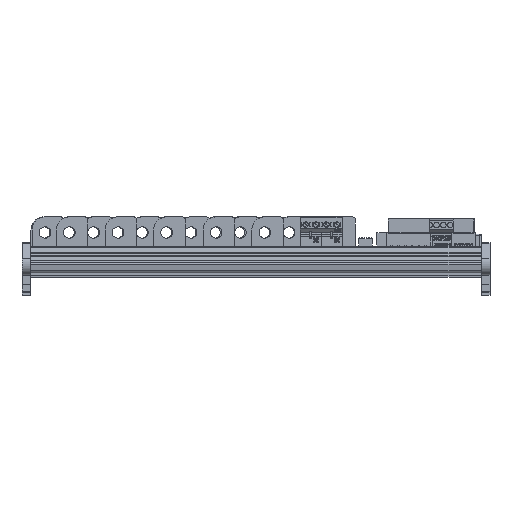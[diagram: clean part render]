
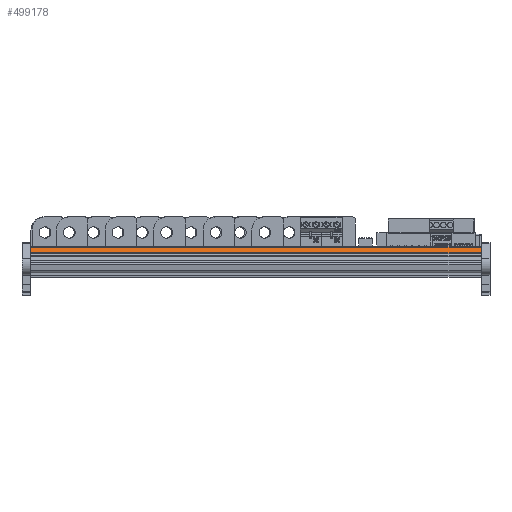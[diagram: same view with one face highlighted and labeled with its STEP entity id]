
A CAD part, front view. The second image highlights one B-rep face of the part: STEP entity #499178.
In plain terms, the highlighted free-form (B-spline) face has degree [1, 1] with [2, 2] control points.
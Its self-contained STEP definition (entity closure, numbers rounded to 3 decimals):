
#489519 = B_SPLINE_SURFACE_WITH_KNOTS('',1,1,(
    (#489520,#489521)
    ,(#489522,#489523
    )),.UNSPECIFIED.,.F.,.F.,.F.,(2,2),(2,2),(-112.497,
    8.897),(-17.3,5.1),.PIECEWISE_BEZIER_KNOTS.);
#489520 = CARTESIAN_POINT('',(60.697,-0.55,170.156));
#489521 = CARTESIAN_POINT('',(60.697,21.85,170.156));
#489522 = CARTESIAN_POINT('',(-60.697,-0.55,170.156));
#489523 = CARTESIAN_POINT('',(-60.697,21.85,170.156));
#489573 = B_SPLINE_SURFACE_WITH_KNOTS('',1,1,(
    (#489574,#489575)
    ,(#489576,#489577
    )),.UNSPECIFIED.,.F.,.F.,.F.,(2,2),(2,2),(-112.497,
    8.897),(-17.3,5.1),.PIECEWISE_BEZIER_KNOTS.);
#489574 = CARTESIAN_POINT('',(60.697,-0.55,-167.434));
#489575 = CARTESIAN_POINT('',(60.697,21.85,-167.434));
#489576 = CARTESIAN_POINT('',(-60.697,-0.55,-167.434));
#489577 = CARTESIAN_POINT('',(-60.697,21.85,-167.434));
#491705 = VERTEX_POINT('',#491706);
#491706 = CARTESIAN_POINT('',(55.318,21.516,-167.434
    ));
#491726 = ( BOUNDED_SURFACE() B_SPLINE_SURFACE(2,1,(
    (#491727,#491728)
    ,(#491729,#491730)
    ,(#491731,#491732
)),.UNSPECIFIED.,.F.,.F.,.F.) B_SPLINE_SURFACE_WITH_KNOTS((3,3),(2,2),(
    1.569,2.802),(-2.,60.),.PIECEWISE_BEZIER_KNOTS.) 
GEOMETRIC_REPRESENTATION_ITEM() RATIONAL_B_SPLINE_SURFACE((
    (1.,1.)
    ,(0.816,0.816)
,(1.,1.))) REPRESENTATION_ITEM('') SURFACE() );
#491727 = CARTESIAN_POINT('',(54.845,21.849,170.156)
  );
#491728 = CARTESIAN_POINT('',(54.845,21.849,-167.434
    ));
#491729 = CARTESIAN_POINT('',(55.2,21.85,170.156));
#491730 = CARTESIAN_POINT('',(55.2,21.85,-167.434));
#491731 = CARTESIAN_POINT('',(55.318,21.516,170.156)
  );
#491732 = CARTESIAN_POINT('',(55.318,21.516,-167.434
    ));
#491740 = EDGE_CURVE('',#491705,#491741,#491743,.T.);
#491741 = VERTEX_POINT('',#491742);
#491742 = CARTESIAN_POINT('',(56.765,17.416,-167.434
    ));
#491743 = SURFACE_CURVE('',#491744,(#491747,#491754),.PCURVE_S1.);
#491744 = B_SPLINE_CURVE_WITH_KNOTS('',1,(#491745,#491746),
  .UNSPECIFIED.,.F.,.F.,(2,2),(-5.054,-0.707),
  .PIECEWISE_BEZIER_KNOTS.);
#491745 = CARTESIAN_POINT('',(55.318,21.516,-167.434
    ));
#491746 = CARTESIAN_POINT('',(56.765,17.416,-167.434
    ));
#491747 = PCURVE('',#489573,#491748);
#491748 = DEFINITIONAL_REPRESENTATION('',(#491749),#491753);
#491749 = B_SPLINE_CURVE_WITH_KNOTS('',2,(#491750,#491751,#491752),
  .UNSPECIFIED.,.F.,.F.,(3,3),(-5.054,-0.707),
  .PIECEWISE_BEZIER_KNOTS.);
#491750 = CARTESIAN_POINT('',(-107.118,4.766));
#491751 = CARTESIAN_POINT('',(-107.841,2.716));
#491752 = CARTESIAN_POINT('',(-108.565,0.666));
#491753 = ( GEOMETRIC_REPRESENTATION_CONTEXT(2) 
PARAMETRIC_REPRESENTATION_CONTEXT() REPRESENTATION_CONTEXT('2D SPACE',''
  ) );
#491754 = PCURVE('',#491755,#491760);
#491755 = B_SPLINE_SURFACE_WITH_KNOTS('',1,1,(
    (#491756,#491757)
    ,(#491758,#491759
    )),.UNSPECIFIED.,.F.,.F.,.F.,(2,2),(2,2),(-5.054,
    -0.707),(-2.,60.),.PIECEWISE_BEZIER_KNOTS.);
#491756 = CARTESIAN_POINT('',(55.318,21.516,170.156)
  );
#491757 = CARTESIAN_POINT('',(55.318,21.516,-167.434
    ));
#491758 = CARTESIAN_POINT('',(56.765,17.416,170.156)
  );
#491759 = CARTESIAN_POINT('',(56.765,17.416,-167.434
    ));
#491760 = DEFINITIONAL_REPRESENTATION('',(#491761),#491765);
#491761 = B_SPLINE_CURVE_WITH_KNOTS('',2,(#491762,#491763,#491764),
  .UNSPECIFIED.,.F.,.F.,(3,3),(-5.054,-0.707),
  .PIECEWISE_BEZIER_KNOTS.);
#491762 = CARTESIAN_POINT('',(-5.054,60.));
#491763 = CARTESIAN_POINT('',(-2.88,60.));
#491764 = CARTESIAN_POINT('',(-0.707,60.));
#491765 = ( GEOMETRIC_REPRESENTATION_CONTEXT(2) 
PARAMETRIC_REPRESENTATION_CONTEXT() REPRESENTATION_CONTEXT('2D SPACE',''
  ) );
#491794 = ( BOUNDED_SURFACE() B_SPLINE_SURFACE(2,1,(
    (#491795,#491796)
    ,(#491797,#491798)
    ,(#491799,#491800
)),.UNSPECIFIED.,.F.,.F.,.F.) B_SPLINE_SURFACE_WITH_KNOTS((3,3),(2,2),(
    2.802,4.712),(-2.,60.),.PIECEWISE_BEZIER_KNOTS.) 
GEOMETRIC_REPRESENTATION_ITEM() RATIONAL_B_SPLINE_SURFACE((
    (1.,1.)
    ,(0.578,0.578)
,(1.,1.))) REPRESENTATION_ITEM('') SURFACE() );
#491795 = CARTESIAN_POINT('',(56.765,17.416,170.156)
  );
#491796 = CARTESIAN_POINT('',(56.765,17.416,-167.434
    ));
#491797 = CARTESIAN_POINT('',(57.,16.75,170.156));
#491798 = CARTESIAN_POINT('',(57.,16.75,-167.434));
#491799 = CARTESIAN_POINT('',(56.293,16.75,170.156));
#491800 = CARTESIAN_POINT('',(56.293,16.75,-167.434));
#494580 = VERTEX_POINT('',#494581);
#494581 = CARTESIAN_POINT('',(56.765,17.416,170.156)
  );
#494613 = EDGE_CURVE('',#494614,#494580,#494616,.T.);
#494614 = VERTEX_POINT('',#494615);
#494615 = CARTESIAN_POINT('',(55.318,21.516,170.156)
  );
#494616 = SURFACE_CURVE('',#494617,(#494620,#494627),.PCURVE_S1.);
#494617 = B_SPLINE_CURVE_WITH_KNOTS('',1,(#494618,#494619),
  .UNSPECIFIED.,.F.,.F.,(2,2),(-5.054,-0.707),
  .PIECEWISE_BEZIER_KNOTS.);
#494618 = CARTESIAN_POINT('',(55.318,21.516,170.156)
  );
#494619 = CARTESIAN_POINT('',(56.765,17.416,170.156)
  );
#494620 = PCURVE('',#489519,#494621);
#494621 = DEFINITIONAL_REPRESENTATION('',(#494622),#494626);
#494622 = B_SPLINE_CURVE_WITH_KNOTS('',2,(#494623,#494624,#494625),
  .UNSPECIFIED.,.F.,.F.,(3,3),(-5.054,-0.707),
  .PIECEWISE_BEZIER_KNOTS.);
#494623 = CARTESIAN_POINT('',(-107.118,4.766));
#494624 = CARTESIAN_POINT('',(-107.841,2.716));
#494625 = CARTESIAN_POINT('',(-108.565,0.666));
#494626 = ( GEOMETRIC_REPRESENTATION_CONTEXT(2) 
PARAMETRIC_REPRESENTATION_CONTEXT() REPRESENTATION_CONTEXT('2D SPACE',''
  ) );
#494627 = PCURVE('',#491755,#494628);
#494628 = DEFINITIONAL_REPRESENTATION('',(#494629),#494633);
#494629 = B_SPLINE_CURVE_WITH_KNOTS('',2,(#494630,#494631,#494632),
  .UNSPECIFIED.,.F.,.F.,(3,3),(-5.054,-0.707),
  .PIECEWISE_BEZIER_KNOTS.);
#494630 = CARTESIAN_POINT('',(-5.054,-2.));
#494631 = CARTESIAN_POINT('',(-2.88,-2.));
#494632 = CARTESIAN_POINT('',(-0.707,-2.));
#494633 = ( GEOMETRIC_REPRESENTATION_CONTEXT(2) 
PARAMETRIC_REPRESENTATION_CONTEXT() REPRESENTATION_CONTEXT('2D SPACE',''
  ) );
#497708 = EDGE_CURVE('',#491705,#494614,#497709,.T.);
#497709 = SURFACE_CURVE('',#497710,(#497713,#497720),.PCURVE_S1.);
#497710 = B_SPLINE_CURVE_WITH_KNOTS('',1,(#497711,#497712),
  .UNSPECIFIED.,.F.,.F.,(2,2),(-60.,2.),.PIECEWISE_BEZIER_KNOTS.);
#497711 = CARTESIAN_POINT('',(55.318,21.516,-167.434
    ));
#497712 = CARTESIAN_POINT('',(55.318,21.516,170.156)
  );
#497713 = PCURVE('',#491726,#497714);
#497714 = DEFINITIONAL_REPRESENTATION('',(#497715),#497719);
#497715 = B_SPLINE_CURVE_WITH_KNOTS('',2,(#497716,#497717,#497718),
  .UNSPECIFIED.,.F.,.F.,(3,3),(-60.,2.),.PIECEWISE_BEZIER_KNOTS.);
#497716 = CARTESIAN_POINT('',(2.802,60.));
#497717 = CARTESIAN_POINT('',(2.802,29.));
#497718 = CARTESIAN_POINT('',(2.802,-2.));
#497719 = ( GEOMETRIC_REPRESENTATION_CONTEXT(2) 
PARAMETRIC_REPRESENTATION_CONTEXT() REPRESENTATION_CONTEXT('2D SPACE',''
  ) );
#497720 = PCURVE('',#491755,#497721);
#497721 = DEFINITIONAL_REPRESENTATION('',(#497722),#497726);
#497722 = B_SPLINE_CURVE_WITH_KNOTS('',2,(#497723,#497724,#497725),
  .UNSPECIFIED.,.F.,.F.,(3,3),(-60.,2.),.PIECEWISE_BEZIER_KNOTS.);
#497723 = CARTESIAN_POINT('',(-5.054,60.));
#497724 = CARTESIAN_POINT('',(-5.054,29.));
#497725 = CARTESIAN_POINT('',(-5.054,-2.));
#497726 = ( GEOMETRIC_REPRESENTATION_CONTEXT(2) 
PARAMETRIC_REPRESENTATION_CONTEXT() REPRESENTATION_CONTEXT('2D SPACE',''
  ) );
#499131 = EDGE_CURVE('',#491741,#494580,#499132,.T.);
#499132 = SURFACE_CURVE('',#499133,(#499136,#499143),.PCURVE_S1.);
#499133 = B_SPLINE_CURVE_WITH_KNOTS('',1,(#499134,#499135),
  .UNSPECIFIED.,.F.,.F.,(2,2),(-60.,2.),.PIECEWISE_BEZIER_KNOTS.);
#499134 = CARTESIAN_POINT('',(56.765,17.416,-167.434
    ));
#499135 = CARTESIAN_POINT('',(56.765,17.416,170.156)
  );
#499136 = PCURVE('',#491794,#499137);
#499137 = DEFINITIONAL_REPRESENTATION('',(#499138),#499142);
#499138 = B_SPLINE_CURVE_WITH_KNOTS('',2,(#499139,#499140,#499141),
  .UNSPECIFIED.,.F.,.F.,(3,3),(-60.,2.),.PIECEWISE_BEZIER_KNOTS.);
#499139 = CARTESIAN_POINT('',(2.802,60.));
#499140 = CARTESIAN_POINT('',(2.802,29.));
#499141 = CARTESIAN_POINT('',(2.802,-2.));
#499142 = ( GEOMETRIC_REPRESENTATION_CONTEXT(2) 
PARAMETRIC_REPRESENTATION_CONTEXT() REPRESENTATION_CONTEXT('2D SPACE',''
  ) );
#499143 = PCURVE('',#491755,#499144);
#499144 = DEFINITIONAL_REPRESENTATION('',(#499145),#499149);
#499145 = B_SPLINE_CURVE_WITH_KNOTS('',2,(#499146,#499147,#499148),
  .UNSPECIFIED.,.F.,.F.,(3,3),(-60.,2.),.PIECEWISE_BEZIER_KNOTS.);
#499146 = CARTESIAN_POINT('',(-0.707,60.));
#499147 = CARTESIAN_POINT('',(-0.707,29.));
#499148 = CARTESIAN_POINT('',(-0.707,-2.));
#499149 = ( GEOMETRIC_REPRESENTATION_CONTEXT(2) 
PARAMETRIC_REPRESENTATION_CONTEXT() REPRESENTATION_CONTEXT('2D SPACE',''
  ) );
#499178 = ADVANCED_FACE('',(#499179),#491755,.T.);
#499179 = FACE_BOUND('',#499180,.T.);
#499180 = EDGE_LOOP('',(#499181,#499182,#499183,#499184));
#499181 = ORIENTED_EDGE('',*,*,#494613,.T.);
#499182 = ORIENTED_EDGE('',*,*,#499131,.F.);
#499183 = ORIENTED_EDGE('',*,*,#491740,.F.);
#499184 = ORIENTED_EDGE('',*,*,#497708,.T.);
